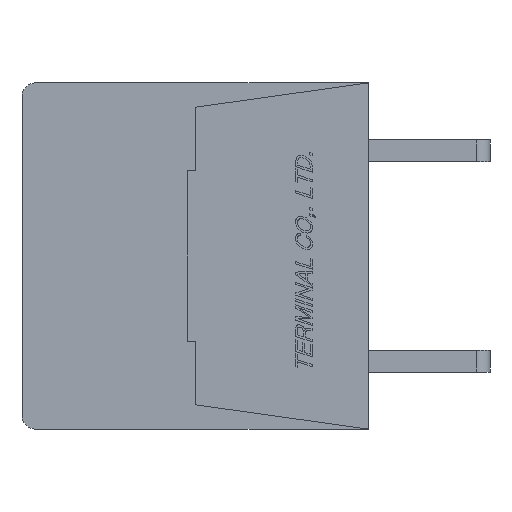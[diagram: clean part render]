
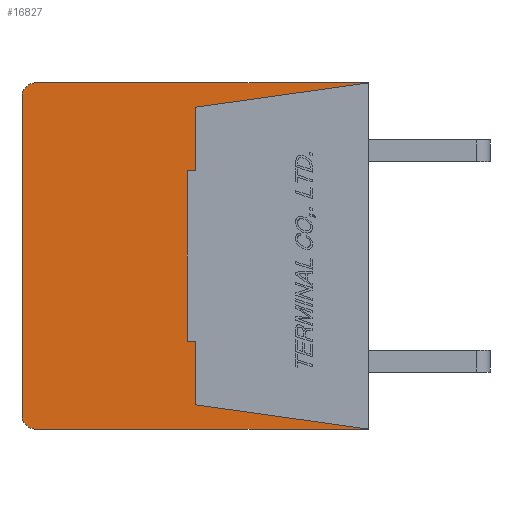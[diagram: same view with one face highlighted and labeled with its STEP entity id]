
A CAD part, left-side view. The second image highlights one B-rep face of the part: STEP entity #16827.
In plain terms, the highlighted planar face has unit normal (-1, 0, 0) as drawn and (1, 0, 0) by its records, which use the part's own axes.
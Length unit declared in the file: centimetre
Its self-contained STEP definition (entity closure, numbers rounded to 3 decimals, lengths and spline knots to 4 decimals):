
#852=CIRCLE('',#28494,0.05);
#853=CIRCLE('',#28495,0.05);
#1445=VERTEX_POINT('',#23057);
#1446=VERTEX_POINT('',#23059);
#1452=VERTEX_POINT('',#23073);
#1454=VERTEX_POINT('',#23079);
#1457=VERTEX_POINT('',#23087);
#1459=VERTEX_POINT('',#23093);
#1465=VERTEX_POINT('',#23107);
#1467=VERTEX_POINT('',#23113);
#1818=VERTEX_POINT('',#24651);
#1819=VERTEX_POINT('',#24653);
#1820=VERTEX_POINT('',#24655);
#1821=VERTEX_POINT('',#24657);
#3211=VECTOR('',#18988,1.);
#3218=VECTOR('',#18996,1.);
#3221=VECTOR('',#19000,1.);
#3224=VECTOR('',#19006,1.);
#3227=VECTOR('',#19010,1.);
#3234=VECTOR('',#19018,1.);
#3237=VECTOR('',#19022,1.);
#3655=VECTOR('',#19591,1.);
#3656=VECTOR('',#19594,1.);
#3657=VECTOR('',#19597,1.);
#5183=LINE('',#23058,#3211);
#5190=LINE('',#23072,#3218);
#5193=LINE('',#23078,#3221);
#5196=LINE('',#23086,#3224);
#5199=LINE('',#23092,#3227);
#5206=LINE('',#23106,#3234);
#5209=LINE('',#23112,#3237);
#5627=LINE('',#24650,#3655);
#5628=LINE('',#24654,#3656);
#5629=LINE('',#24658,#3657);
#7332=EDGE_CURVE('',#1446,#1445,#5183,.T.);
#7339=EDGE_CURVE('',#1452,#1446,#5190,.T.);
#7342=EDGE_CURVE('',#1454,#1452,#5193,.T.);
#7346=EDGE_CURVE('',#1457,#1454,#5196,.T.);
#7349=EDGE_CURVE('',#1459,#1457,#5199,.T.);
#7356=EDGE_CURVE('',#1465,#1459,#5206,.T.);
#7359=EDGE_CURVE('',#1467,#1465,#5209,.T.);
#7885=EDGE_CURVE('',#1445,#1818,#5627,.T.);
#7886=EDGE_CURVE('',#1819,#1818,#852,.T.);
#7887=EDGE_CURVE('',#1819,#1820,#5628,.T.);
#7888=EDGE_CURVE('',#1821,#1820,#853,.T.);
#7889=EDGE_CURVE('',#1821,#1467,#5629,.T.);
#11697=ORIENTED_EDGE('',*,*,#7332,.T.);
#11698=ORIENTED_EDGE('',*,*,#7885,.T.);
#11699=ORIENTED_EDGE('',*,*,#7886,.F.);
#11700=ORIENTED_EDGE('',*,*,#7887,.T.);
#11701=ORIENTED_EDGE('',*,*,#7888,.F.);
#11702=ORIENTED_EDGE('',*,*,#7889,.T.);
#11703=ORIENTED_EDGE('',*,*,#7359,.T.);
#11704=ORIENTED_EDGE('',*,*,#7356,.T.);
#11705=ORIENTED_EDGE('',*,*,#7349,.T.);
#11706=ORIENTED_EDGE('',*,*,#7346,.T.);
#11707=ORIENTED_EDGE('',*,*,#7342,.T.);
#11708=ORIENTED_EDGE('',*,*,#7339,.T.);
#14719=EDGE_LOOP('',(#11697,#11698,#11699,#11700,#11701,#11702,#11703,#11704,
#11705,#11706,#11707,#11708));
#15811=FACE_BOUND('',#14719,.T.);
#16827=ADVANCED_FACE('',(#15811),#17672,.F.);
#17672=PLANE('',#28493);
#18988=DIRECTION('',(0.,-0.99,-0.139));
#18996=DIRECTION('',(0.,0.,-1.));
#19000=DIRECTION('',(0.,-1.,0.));
#19006=DIRECTION('',(0.,0.,-1.));
#19010=DIRECTION('',(0.,1.,0.));
#19018=DIRECTION('',(0.,0.,-1.));
#19022=DIRECTION('',(0.,0.99,-0.139));
#19590=DIRECTION('',(-1.,0.,0.));
#19591=DIRECTION('',(0.,1.,0.));
#19592=DIRECTION('',(-1.,0.,0.));
#19593=DIRECTION('',(0.,0.,0.05));
#19594=DIRECTION('',(0.,0.,1.));
#19595=DIRECTION('',(-1.,0.,0.));
#19596=DIRECTION('',(0.,0.,0.05));
#19597=DIRECTION('',(0.,-1.,0.));
#23057=CARTESIAN_POINT('',(0.,0.,-0.64));
#23058=CARTESIAN_POINT('',(0.,0.64,-0.55));
#23059=CARTESIAN_POINT('',(0.,0.64,-0.55));
#23072=CARTESIAN_POINT('',(0.,0.64,-0.315));
#23073=CARTESIAN_POINT('',(0.,0.64,-0.315));
#23078=CARTESIAN_POINT('',(0.,0.67,-0.315));
#23079=CARTESIAN_POINT('',(0.,0.67,-0.315));
#23086=CARTESIAN_POINT('',(0.,0.67,0.315));
#23087=CARTESIAN_POINT('',(0.,0.67,0.315));
#23092=CARTESIAN_POINT('',(0.,0.64,0.315));
#23093=CARTESIAN_POINT('',(0.,0.64,0.315));
#23106=CARTESIAN_POINT('',(0.,0.64,0.55));
#23107=CARTESIAN_POINT('',(0.,0.64,0.55));
#23112=CARTESIAN_POINT('',(0.,0.,0.64));
#23113=CARTESIAN_POINT('',(0.,0.,0.64));
#24649=CARTESIAN_POINT('',(0.,0.6345,0.));
#24650=CARTESIAN_POINT('',(0.,0.,
-0.64));
#24651=CARTESIAN_POINT('',(0.,1.23,-0.64));
#24652=CARTESIAN_POINT('',(0.,1.23,-0.59));
#24653=CARTESIAN_POINT('',(0.,1.28,-0.59));
#24654=CARTESIAN_POINT('',(0.,1.28,-0.59));
#24655=CARTESIAN_POINT('',(0.,1.28,0.59));
#24656=CARTESIAN_POINT('',(0.,1.23,0.59));
#24657=CARTESIAN_POINT('',(0.,1.23,0.64));
#24658=CARTESIAN_POINT('',(0.,1.23,0.64));
#28493=AXIS2_PLACEMENT_3D('',#24649,#19590,$);
#28494=AXIS2_PLACEMENT_3D('',#24652,#19592,#19593);
#28495=AXIS2_PLACEMENT_3D('',#24656,#19595,#19596);
